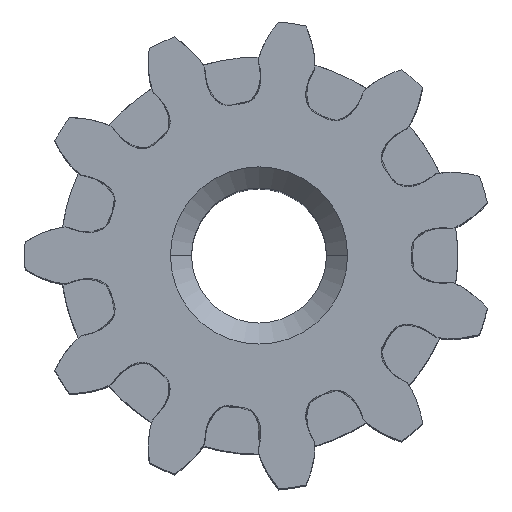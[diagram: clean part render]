
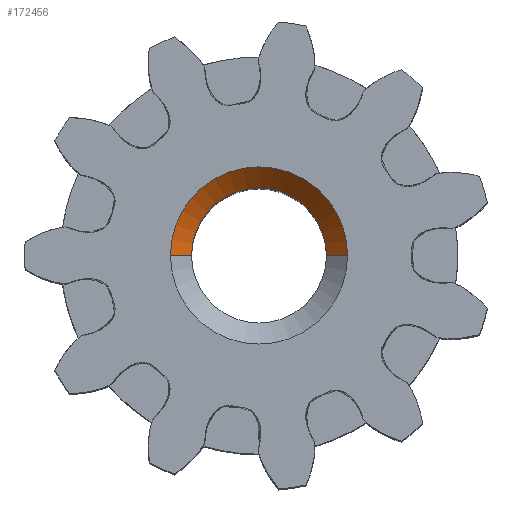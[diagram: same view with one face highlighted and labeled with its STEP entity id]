
A CAD part, top view. The second image highlights one B-rep face of the part: STEP entity #172456.
In plain terms, the highlighted conical face has half-angle 45 degrees and reference radius 2.1 mm.
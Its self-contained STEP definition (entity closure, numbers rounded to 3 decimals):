
#8733 = CIRCLE ( 'NONE', #49943, 2.1 ) ;
#15758 = EDGE_LOOP ( 'NONE', ( #219571, #126186, #173397, #142264 ) ) ;
#18140 = DIRECTION ( 'NONE',  ( 0.707, 0., 0.707 ) ) ;
#23251 = CONICAL_SURFACE ( 'NONE', #234766, 2.1, 0.785 ) ;
#24726 = DIRECTION ( 'NONE',  ( -1., 0., 0. ) ) ;
#32800 = DIRECTION ( 'NONE',  ( -0.707, 0., 0.707 ) ) ;
#49943 = AXIS2_PLACEMENT_3D ( 'NONE', #68367, #239441, #88256 ) ;
#65022 = VECTOR ( 'NONE', #18140, 1000. ) ;
#68367 = CARTESIAN_POINT ( 'NONE',  ( 0., 0., 6.95 ) ) ;
#70967 = VERTEX_POINT ( 'NONE', #84280 ) ;
#84280 = CARTESIAN_POINT ( 'NONE',  ( 1.6, 0., 6.45 ) ) ;
#88256 = DIRECTION ( 'NONE',  ( -1., 0., 0. ) ) ;
#107836 = VERTEX_POINT ( 'NONE', #163065 ) ;
#109548 = LINE ( 'NONE', #185958, #65022 ) ;
#109952 = EDGE_CURVE ( 'NONE', #147478, #107836, #8733, .T. ) ;
#124350 = DIRECTION ( 'NONE',  ( 0., 0., 1. ) ) ;
#126186 = ORIENTED_EDGE ( 'NONE', *, *, #237358, .F. ) ;
#128489 = AXIS2_PLACEMENT_3D ( 'NONE', #177562, #214932, #24726 ) ;
#130476 = VECTOR ( 'NONE', #32800, 1000. ) ;
#136190 = EDGE_CURVE ( 'NONE', #227708, #147478, #151221, .T. ) ;
#142264 = ORIENTED_EDGE ( 'NONE', *, *, #109952, .F. ) ;
#145065 = DIRECTION ( 'NONE',  ( 1., 0., 0. ) ) ;
#145770 = CARTESIAN_POINT ( 'NONE',  ( -2.1, 0., 6.95 ) ) ;
#147478 = VERTEX_POINT ( 'NONE', #198163 ) ;
#149941 = CARTESIAN_POINT ( 'NONE',  ( -1.6, 0., 6.45 ) ) ;
#151221 = LINE ( 'NONE', #145770, #130476 ) ;
#163065 = CARTESIAN_POINT ( 'NONE',  ( 2.1, 0., 6.95 ) ) ;
#172456 = ADVANCED_FACE ( 'NONE', ( #180845 ), #23251, .F. ) ;
#173397 = ORIENTED_EDGE ( 'NONE', *, *, #207930, .T. ) ;
#177562 = CARTESIAN_POINT ( 'NONE',  ( 0., 0., 6.45 ) ) ;
#180845 = FACE_OUTER_BOUND ( 'NONE', #15758, .T. ) ;
#185958 = CARTESIAN_POINT ( 'NONE',  ( 2.1, 0., 6.95 ) ) ;
#186791 = CIRCLE ( 'NONE', #128489, 1.6 ) ;
#198163 = CARTESIAN_POINT ( 'NONE',  ( -2.1, 0., 6.95 ) ) ;
#202384 = CARTESIAN_POINT ( 'NONE',  ( 0., 0., 6.95 ) ) ;
#207930 = EDGE_CURVE ( 'NONE', #70967, #107836, #109548, .T. ) ;
#214932 = DIRECTION ( 'NONE',  ( 0., 0., 1. ) ) ;
#219571 = ORIENTED_EDGE ( 'NONE', *, *, #136190, .F. ) ;
#227708 = VERTEX_POINT ( 'NONE', #149941 ) ;
#234766 = AXIS2_PLACEMENT_3D ( 'NONE', #202384, #124350, #145065 ) ;
#237358 = EDGE_CURVE ( 'NONE', #70967, #227708, #186791, .T. ) ;
#239441 = DIRECTION ( 'NONE',  ( 0., 0., -1. ) ) ;
